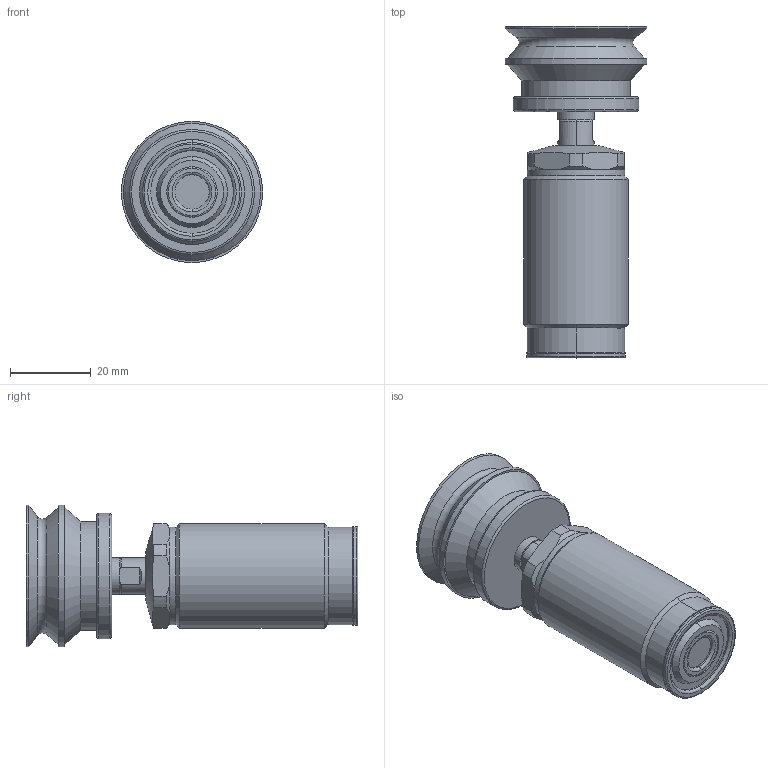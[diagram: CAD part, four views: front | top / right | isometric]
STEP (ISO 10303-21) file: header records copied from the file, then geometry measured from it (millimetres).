
FILE_DESCRIPTION(/* description */ (''),/* implementation_level */ '2;1');
FILE_NAME(/* name */ 'TNL26-D-35吸附型.stp',/* time_stamp */ '2026-08-07T12:55:59+08:00',/* author */ (''),/* organization */ (''),/* preprocessor_version */ 'ST-DEVELOPER v16.7',/* originating_system */ 'SIEMENS PLM Software NX 12.0',/* authorisation */ '');
FILE_SCHEMA (('AUTOMOTIVE_DESIGN { 1 0 10303 214 3 1 1 1 }'));
Length unit declared in the file: millimetre
Products named in the file (6): TNL26-D35-10; TNL26-01957; TNL26-06; TNL26-021066; TNL26-051070; TNL26-D35吸附型_stp
Assembly tree (5 placements, depth 2):
  TNL26-D35吸附型_stp
    TNL26-051070
    TNL26-021066
    TNL26-06
    TNL26-01957
    TNL26-D35-10
Bounding box: 35 x 82.2 x 35 mm (x, y, z)
Volume: 36660.1 mm3; surface area: 17336.1 mm2
Topology: 8 solids, 8 shells, 158 faces, 339 edges, 211 vertices
Faces by surface type: plane 59, cylinder 47, torus 26, cone 25, bspline 1
Full cylindrical faces by diameter (mm): 2 x2, 3.5 x1, 6 x3, 9 x1, 10.3 x2, 15.7 x1, 16 x1, 20 x3, 23 x2, 24.2 x1, 26 x1, 27 x1, 27.4 x1, 31 x1, 35 x2
Entity records: 4303 total; most frequent: CARTESIAN_POINT 827, DIRECTION 764, ORIENTED_EDGE 570, AXIS2_PLACEMENT_3D 346, EDGE_CURVE 285, EDGE_LOOP 231, VERTEX_POINT 201, CIRCLE 181
